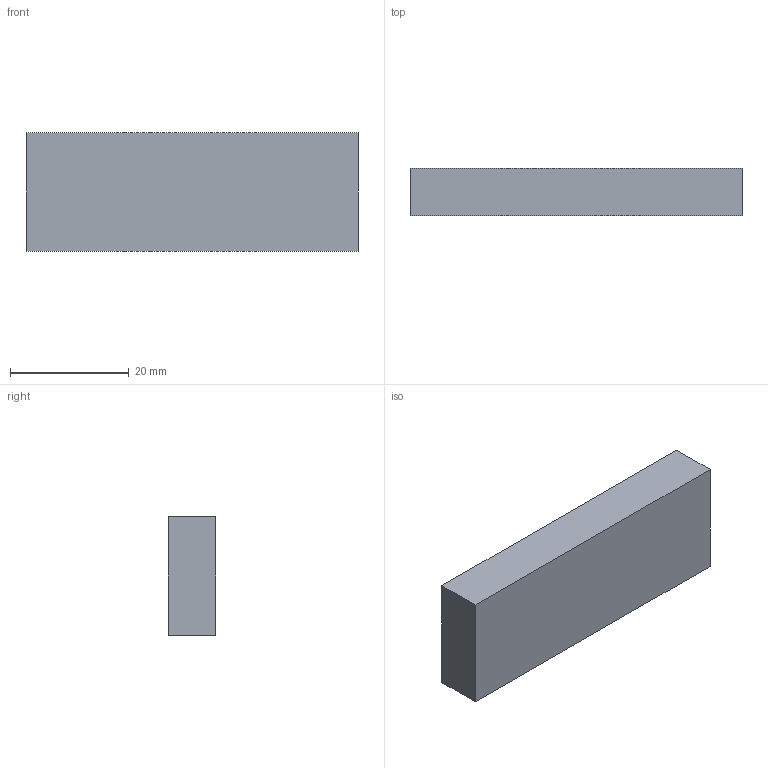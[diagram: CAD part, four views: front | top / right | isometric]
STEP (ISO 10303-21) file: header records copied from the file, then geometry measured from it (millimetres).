
FILE_DESCRIPTION(('Open CASCADE Model'),'2;1');
FILE_NAME('Open CASCADE Shape Model','2026-10-10T15:34:58',('Author'),( 'Open CASCADE'),'Open CASCADE STEP processor 7.9','Open CASCADE 7.9' ,'Unknown');
FILE_SCHEMA(('AUTOMOTIVE_DESIGN { 1 0 10303 214 1 1 1 1 }'));
Length unit declared in the file: millimetre
Products named in the file (1): Open CASCADE STEP translator 7.9 36
Bounding box: 56 x 8 x 20 mm (x, y, z)
Volume: 8960 mm3; surface area: 3456 mm2
Topology: 1 solids, 1 shells, 6 faces, 12 edges, 8 vertices
Faces by surface type: plane 6
Entity records: 322 total; most frequent: CARTESIAN_POINT 51, DIRECTION 50, LINE 36, VECTOR 36, ORIENTED_EDGE 24, PCURVE 24, DEFINITIONAL_REPRESENTATION 24, EDGE_CURVE 12
